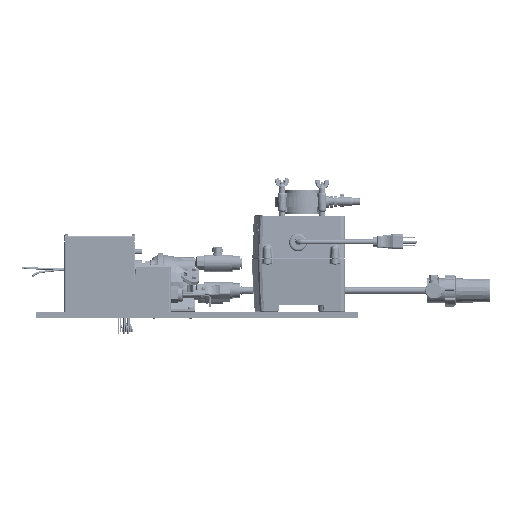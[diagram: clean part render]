
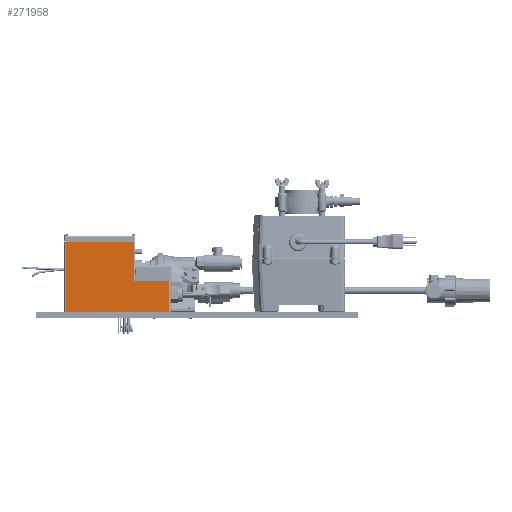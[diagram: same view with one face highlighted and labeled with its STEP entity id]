
A CAD part, left-side view. The second image highlights one B-rep face of the part: STEP entity #271958.
In plain terms, the highlighted planar face has unit normal (-1, 0, 0).
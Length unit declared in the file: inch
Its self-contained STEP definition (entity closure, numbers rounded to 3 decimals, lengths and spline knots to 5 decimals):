
#7299 = VECTOR ( 'NONE', #94341, 39.37008 ) ;
#8717 = VERTEX_POINT ( 'NONE', #182980 ) ;
#9041 = VECTOR ( 'NONE', #595392, 39.37008 ) ;
#27173 = CARTESIAN_POINT ( 'NONE',  ( 1.75044, -7.874, 4.2 ) ) ;
#40017 = VECTOR ( 'NONE', #389550, 39.37008 ) ;
#46176 = CARTESIAN_POINT ( 'NONE',  ( 1.75044, -1.774, 4.1 ) ) ;
#52220 = LINE ( 'NONE', #237927, #248396 ) ;
#62205 = LINE ( 'NONE', #582906, #508048 ) ;
#69186 = CARTESIAN_POINT ( 'NONE',  ( 1.75044, -5.774, 4.1 ) ) ;
#86979 = CARTESIAN_POINT ( 'NONE',  ( 1.75044, -7.874, 1.8 ) ) ;
#88063 = EDGE_LOOP ( 'NONE', ( #251317, #313647, #112412, #526364, #111429, #545053 ) ) ;
#94341 = DIRECTION ( 'NONE',  ( 0., 0., -1. ) ) ;
#111429 = ORIENTED_EDGE ( 'NONE', *, *, #586336, .T. ) ;
#112412 = ORIENTED_EDGE ( 'NONE', *, *, #307181, .T. ) ;
#138890 = VERTEX_POINT ( 'NONE', #476028 ) ;
#169813 = DIRECTION ( 'NONE',  ( 0., 0., 1. ) ) ;
#179518 = VECTOR ( 'NONE', #169813, 39.37008 ) ;
#182980 = CARTESIAN_POINT ( 'NONE',  ( 1.75044, -7.874, 0. ) ) ;
#185761 = CARTESIAN_POINT ( 'NONE',  ( 1.75044, -1.774, 4.2 ) ) ;
#197750 = DIRECTION ( 'NONE',  ( 1., 0., 0. ) ) ;
#200732 = FACE_OUTER_BOUND ( 'NONE', #88063, .T. ) ;
#201769 = VERTEX_POINT ( 'NONE', #69186 ) ;
#211274 = DIRECTION ( 'NONE',  ( 0., -1., 0. ) ) ;
#237927 = CARTESIAN_POINT ( 'NONE',  ( 1.75044, -1.674, 0. ) ) ;
#247846 = VERTEX_POINT ( 'NONE', #568416 ) ;
#248396 = VECTOR ( 'NONE', #423579, 39.37008 ) ;
#251317 = ORIENTED_EDGE ( 'NONE', *, *, #328751, .F. ) ;
#271958 = ADVANCED_FACE ( 'Defeatured_19_32', ( #200732 ), #343788, .F. ) ;
#277904 = DIRECTION ( 'NONE',  ( 0., 1., 0. ) ) ;
#307181 = EDGE_CURVE ( 'Defeatured_19_32+Defeatured_19_51+Defeatured_19_40+Defeatured_19_44', #138890, #8717, #52220, .T. ) ;
#313647 = ORIENTED_EDGE ( 'NONE', *, *, #585090, .T. ) ;
#321162 = LINE ( 'NONE', #497910, #9041 ) ;
#328751 = EDGE_CURVE ( 'Defeatured_19_35+Defeatured_19_32+Defeatured_19_40+Defeatured_19_43', #414937, #201769, #62205, .T. ) ;
#330516 = VERTEX_POINT ( 'NONE', #86979 ) ;
#343788 = PLANE ( 'NONE',  #463552 ) ;
#389550 = DIRECTION ( 'NONE',  ( 0., 0., 1. ) ) ;
#401106 = LINE ( 'NONE', #440799, #179518 ) ;
#402139 = EDGE_CURVE ( 'Defeatured_19_32+Defeatured_19_44+Defeatured_19_51+Defeatured_19_36', #8717, #330516, #496051, .T. ) ;
#405279 = EDGE_CURVE ( 'Defeatured_19_32+Defeatured_19_43+Defeatured_19_36+Defeatured_19_35', #247846, #201769, #401106, .T. ) ;
#414937 = VERTEX_POINT ( 'NONE', #46176 ) ;
#423579 = DIRECTION ( 'NONE',  ( 0., -1., 0. ) ) ;
#429079 = CARTESIAN_POINT ( 'NONE',  ( 1.75044, -1.674, 4.2 ) ) ;
#440799 = CARTESIAN_POINT ( 'NONE',  ( 1.75044, -5.774, 4.2 ) ) ;
#463552 = AXIS2_PLACEMENT_3D ( 'NONE', #429079, #197750, #277904 ) ;
#476028 = CARTESIAN_POINT ( 'NONE',  ( 1.75044, -1.774, 0. ) ) ;
#496051 = LINE ( 'NONE', #27173, #40017 ) ;
#497910 = CARTESIAN_POINT ( 'NONE',  ( 1.75044, -5.874, 1.8 ) ) ;
#508048 = VECTOR ( 'NONE', #211274, 39.37008 ) ;
#526364 = ORIENTED_EDGE ( 'NONE', *, *, #402139, .T. ) ;
#545053 = ORIENTED_EDGE ( 'NONE', *, *, #405279, .T. ) ;
#568416 = CARTESIAN_POINT ( 'NONE',  ( 1.75044, -5.774, 1.8 ) ) ;
#582906 = CARTESIAN_POINT ( 'NONE',  ( 1.75044, -1.674, 4.1 ) ) ;
#585090 = EDGE_CURVE ( 'Defeatured_19_32+Defeatured_19_40+Defeatured_19_35+Defeatured_19_51', #414937, #138890, #603001, .T. ) ;
#586336 = EDGE_CURVE ( 'Defeatured_19_32+Defeatured_19_36+Defeatured_19_44+Defeatured_19_43', #330516, #247846, #321162, .T. ) ;
#595392 = DIRECTION ( 'NONE',  ( 0., 1., 0. ) ) ;
#603001 = LINE ( 'NONE', #185761, #7299 ) ;
